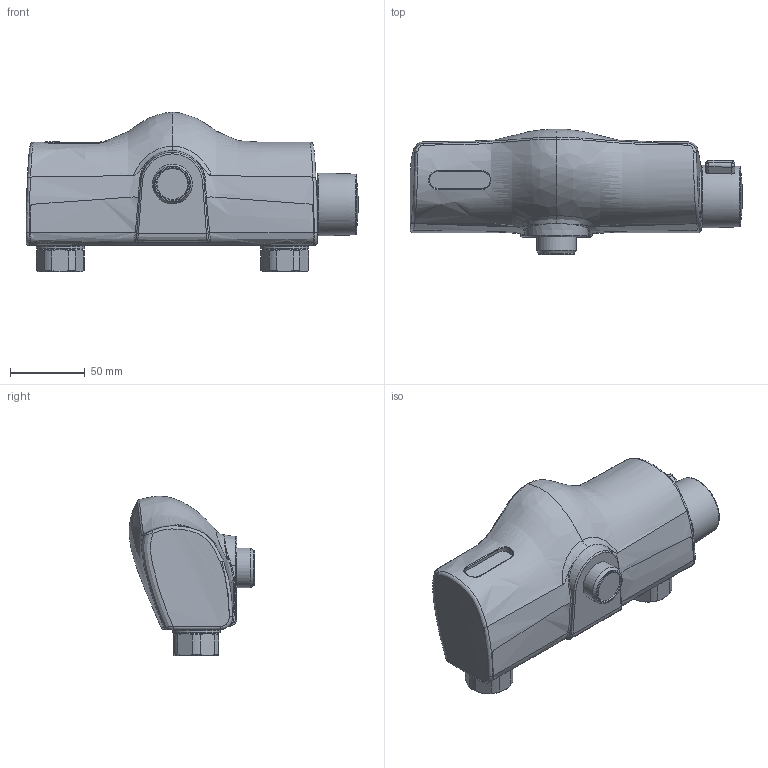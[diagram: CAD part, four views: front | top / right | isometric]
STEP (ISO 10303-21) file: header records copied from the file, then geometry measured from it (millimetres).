
FILE_DESCRIPTION (( 'STEP AP203' ), '1' );
FILE_NAME ('6180.STEP', '2017-03-09T05:56:22', ( '' ), ( '' ), 'SwSTEP 2.0', 'SolidWorks 2016', '' );
FILE_SCHEMA (( 'CONFIG_CONTROL_DESIGN' ));
Length unit declared in the file: millimetre
Products named in the file (1): 6180
Bounding box: 221.81 x 83.94 x 106.67 mm (x, y, z)
Volume: 799800.5 mm3; surface area: 67892.6 mm2
Topology: 1 solids, 1 shells, 194 faces, 454 edges, 284 vertices
Faces by surface type: bspline 72, plane 43, cylinder 39, cone 30, torus 5, sphere 5
Full cylindrical faces by diameter (mm): 24 x3, 26 x2, 26.44 x1, 32 x2, 33.326 x1
Entity records: 18621 total; most frequent: CARTESIAN_POINT 14853, ORIENTED_EDGE 848, DIRECTION 579, EDGE_CURVE 424, VERTEX_POINT 278, AXIS2_PLACEMENT_3D 256, EDGE_LOOP 240, B_SPLINE_CURVE_WITH_KNOTS 222
